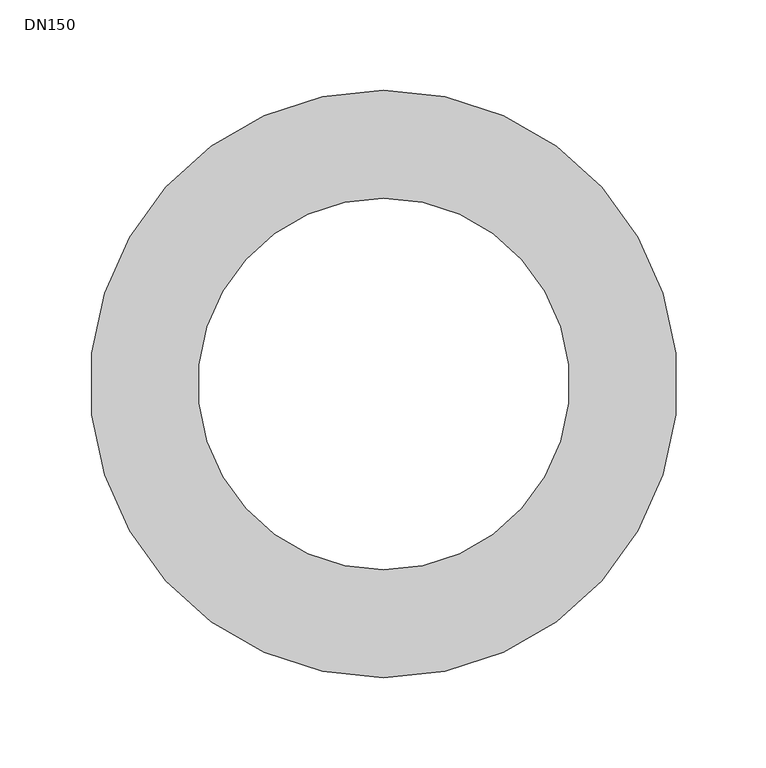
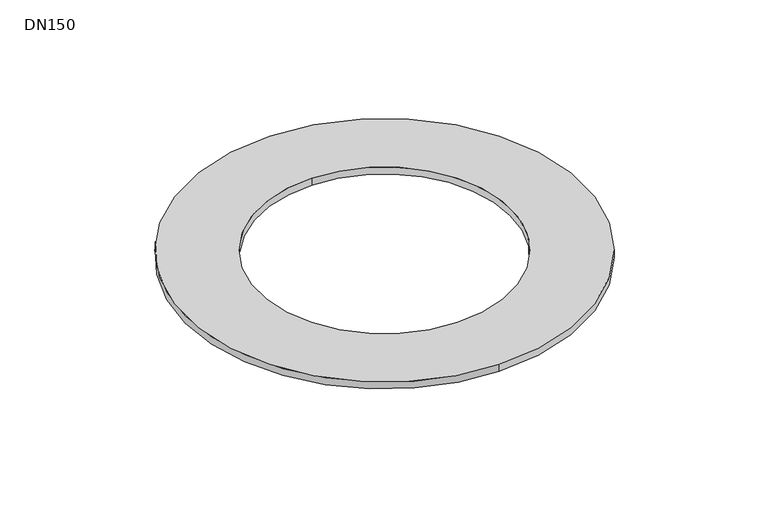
"""IFC4 building model written with IfcOpenShell, lengths in millimetres: sanitary terminal geometry, PF_GEN_configurable gully single body Passavant Spin_ACO : DN150."""

from ifc_helpers import new_model, si_unit, point, frame, origin, origin_2d, place, context, project, spatial, circle_curve, trimmed, segment, composite_curve, outline, extrude, source, transform, mapped, element, save


def dn150_3a27d863(model_context):
    return source(origin(), model_context, "Body", "SweptSolid", [
        extrude(outline(composite_curve([segment(trimmed(circle_curve(origin_2d(), 163.0), [point((0.0, -163.0))], [point((0.0, 163.0))], False, "CARTESIAN"), True, "CONTINUOUS"), segment(trimmed(circle_curve(origin_2d(), 163.0), [point((0.0, 163.0))], [point((0.0, -163.0))], False, "CARTESIAN"), True, "CONTINUOUS")], self_intersect=False), holes=[composite_curve([segment(trimmed(circle_curve(origin_2d(), 103.0), [point((0.0, -103.0))], [point((0.0, 103.0))], True, "CARTESIAN"), True, "CONTINUOUS"), segment(trimmed(circle_curve(origin_2d(), 103.0), [point((0.0, 103.0))], [point((0.0, -103.0))], True, "CARTESIAN"), True, "CONTINUOUS")], self_intersect=False)]), frame((0.0, 0.0, 5.0), z_axis=(0.0, 0.0, 1.0), x_axis=(1.0, 0.0, 0.0)), (0.0, 0.0, 1.0), 6.0),
    ])


if __name__ == "__main__":
    model = new_model("IFC4")
    model_context = context("Model", 3, world=origin())
    ifc_project = project(units=[si_unit("LENGTHUNIT", "METRE", prefix="MILLI")], contexts=[model_context])
    site = spatial("IfcSite", under=ifc_project)
    building = spatial("IfcBuilding", under=site)
    placement = place(None, origin())
    dn150_shape = dn150_3a27d863(model_context)
    element("IfcSanitaryTerminal", 1, ObjectType="PF_GEN_configurable gully single body Passavant Spin_ACO : DN150", at=placement, inside=building, context=model_context, shape_type="MappedRepresentation", body=[
        mapped(dn150_shape, transform((0.0, 0.0, 0.0), x_axis=(1.0, 0.0, 0.0), y_axis=(0.0, 1.0, 0.0), z_axis=(0.0, 0.0, 1.0))),
    ])
    save(model, "model.ifc")
